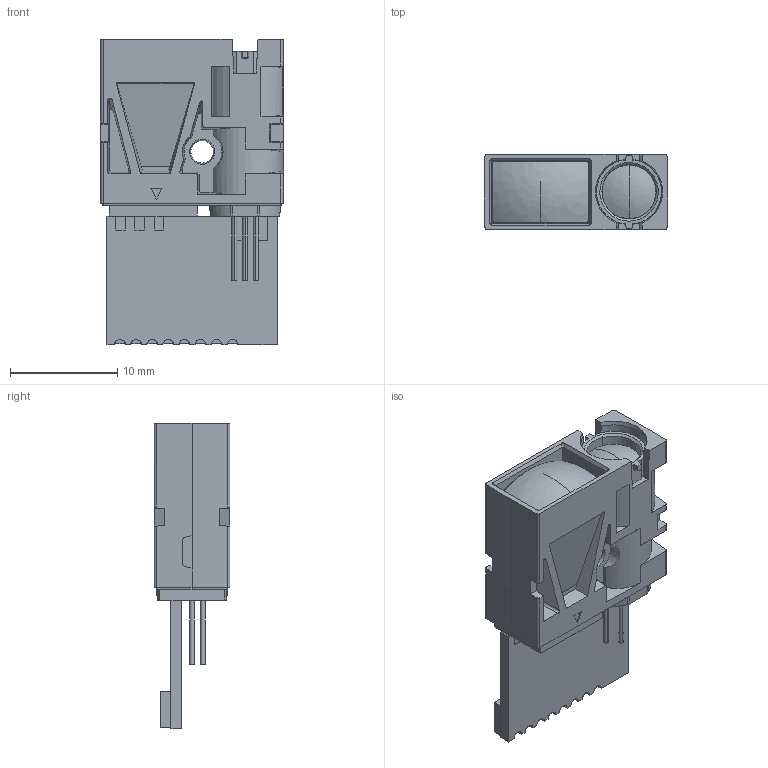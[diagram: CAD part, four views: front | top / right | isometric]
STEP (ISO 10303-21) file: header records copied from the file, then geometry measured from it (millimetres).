
FILE_DESCRIPTION((''),'2;1');
FILE_NAME('DANHE_ASM_ASM','2024-10-27T',('Mike Song'),(''),'PRO/ENGINEER BY PARAMETRIC TECHNOLOGY CORPORATION, 2015240','PRO/ENGINEER BY PARAMETRIC TECHNOLOGY CORPORATION, 2015240','');
FILE_SCHEMA(('CONFIG_CONTROL_DESIGN'));
Length unit declared in the file: metre
Products named in the file (16): PRT0016_1; PRT0017_1; PRT0018_1; PRT0019_1; PRT0020_1; PRT0021_1; ASM0010_ASM_ASM_ASM_1_ASM; ASM0009_ASM_ASM_ASM_1_ASM; MANIFOLD_SOLID_BREP_39353_1; PRT0025_ASM_ASM_1_ASM; ASM0008_ASM_ASM_ASM_1_ASM; ASM0007_ASM_ASM_ASM_1_ASM; DANHE_ASM_ASM_1_ASM; PRT0006_1_ASM; DANHE_ASM_3_ASM; DANHE_ASM_ASM
Assembly tree (15 placements, depth 8):
  DANHE_ASM_ASM
    DANHE_ASM_3_ASM
      DANHE_ASM_ASM_1_ASM
        ASM0007_ASM_ASM_ASM_1_ASM
          ASM0008_ASM_ASM_ASM_1_ASM
            ASM0009_ASM_ASM_ASM_1_ASM
              ASM0010_ASM_ASM_ASM_1_ASM
                PRT0016_1
                PRT0017_1
                PRT0018_1
                PRT0019_1
                PRT0020_1
                PRT0021_1
            PRT0025_ASM_ASM_1_ASM
              MANIFOLD_SOLID_BREP_39353_1
      PRT0006_1_ASM
Bounding box: 17.1 x 7.06 x 28.5 mm (x, y, z)
Volume: 1370.1 mm3; surface area: 2880 mm2
Topology: 7 solids, 7 shells, 472 faces, 1303 edges, 871 vertices
Faces by surface type: plane 304, cylinder 115, cone 29, torus 11, bspline 5, extrusion 4, revolution 4
Entity records: 16479 total; most frequent: CARTESIAN_POINT 4365, ORIENTED_EDGE 2598, DIRECTION 2249, EDGE_CURVE 1299, VERTEX_POINT 871, VECTOR 843, LINE 839, AXIS2_PLACEMENT_3D 701
